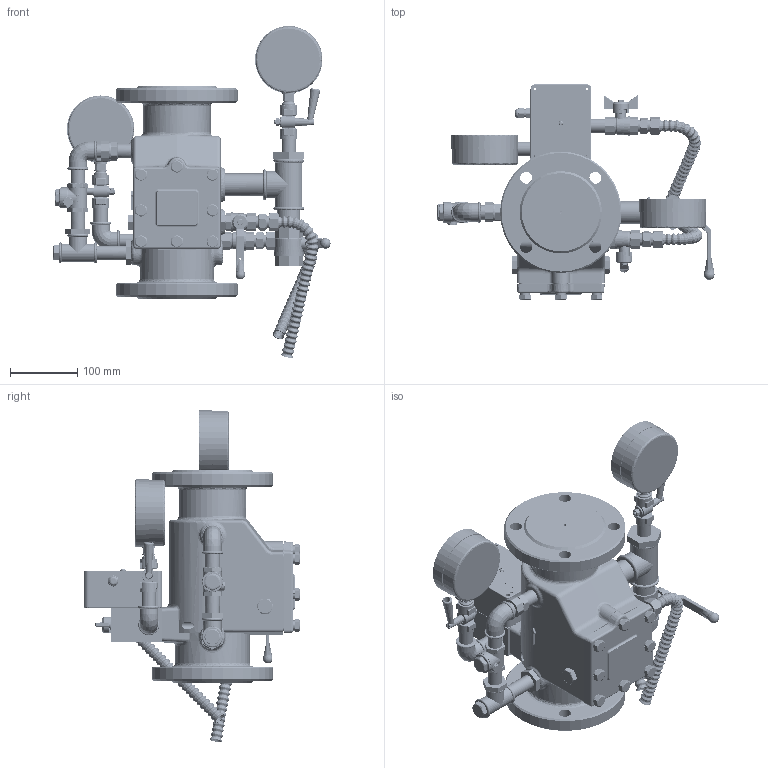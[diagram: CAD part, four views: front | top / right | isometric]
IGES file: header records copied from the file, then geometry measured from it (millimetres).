
Start section: File generated by T-FLEX CAD Version (null)
Global section: file name:     100.314.000   .igs; native system: T-FLEX CAD; date: 211013.130034; units: millimetre
Bounding box: 411 x 319.3 x 492.43 mm (x, y, z)
Volume: 7416384.6 mm3; surface area: 816860.7 mm2
Topology: 59 solids, 91 shells, 3836 faces, 9270 edges, 5459 vertices
Faces by surface type: cylinder 1249, plane 1200, bspline 564, cone 434, revolution 291, sphere 98
